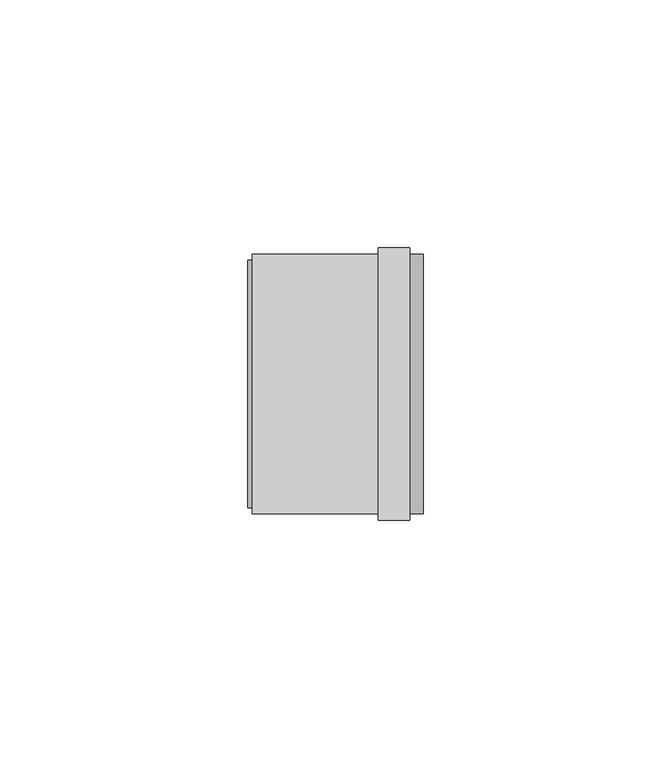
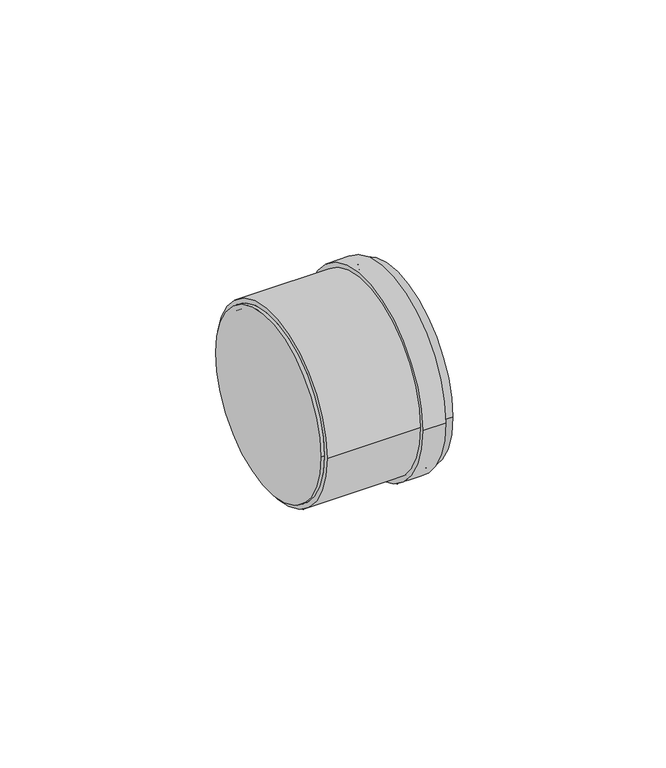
"""IFC4 building model written with IfcOpenShell, lengths in millimetres: pipe fitting geometry, Superdrain HTM-Plug : Superdrain HTM-Plug."""

from ifc_helpers import new_model, si_unit, point, frame, origin, origin_2d, place, context, project, spatial, polyline, circle_curve, trimmed, segment, composite_curve, outline, extrude, source, transform, mapped, element, save
from ifc_brep_helpers import plane_surface, cylinder_surface, revolved_surface, advanced_brep


def pipe_fitting_25bed5f7(model_context):
    return source(origin(), model_context, "Body", "SolidModel", [
        extrude(outline(composite_curve([segment(trimmed(circle_curve(origin_2d(), 26.25), [point((26.25, 0.0))], [point((-26.25, 0.0))], False, "CARTESIAN"), True, "CONTINUOUS"), segment(trimmed(circle_curve(origin_2d(), 26.25), [point((-26.25, 0.0))], [point((26.25, 0.0))], False, "CARTESIAN"), True, "CONTINUOUS")], self_intersect=False), holes=[composite_curve([segment(trimmed(circle_curve(origin_2d(), 25.0), [point((25.0, 0.0))], [point((-25.0, 0.0))], True, "CARTESIAN"), True, "CONTINUOUS"), segment(trimmed(circle_curve(origin_2d(), 25.0), [point((-25.0, 0.0))], [point((25.0, 0.0))], True, "CARTESIAN"), True, "CONTINUOUS")], self_intersect=False)]), frame((0.0, 0.0, 0.0), z_axis=(1.0, 0.0, 0.0), x_axis=(0.0, 1.0, 0.0)), (0.0, 0.0, 1.0), 31.8),
        extrude(outline(composite_curve([segment(trimmed(circle_curve(origin_2d(), 27.5625), [point((27.5625, 0.0))], [point((-27.5625, 0.0))], False, "CARTESIAN"), True, "CONTINUOUS"), segment(trimmed(circle_curve(origin_2d(), 27.5625), [point((-27.5625, 0.0))], [point((27.5625, 0.0))], False, "CARTESIAN"), True, "CONTINUOUS")], self_intersect=False), holes=[composite_curve([segment(trimmed(circle_curve(origin_2d(), 25.0), [point((25.0, 0.0))], [point((-25.0, 0.0))], True, "CARTESIAN"), True, "CONTINUOUS"), segment(trimmed(circle_curve(origin_2d(), 25.0), [point((-25.0, 0.0))], [point((25.0, 0.0))], True, "CARTESIAN"), True, "CONTINUOUS")], self_intersect=False)]), frame((25.44, 0.0, 0.0), z_axis=(1.0, 0.0, 0.0), x_axis=(0.0, 1.0, 0.0)), (0.0, 0.0, 1.0), 6.36),
        extrude(outline(composite_curve([segment(trimmed(circle_curve(origin_2d(), 25.0), [point((25.0, 0.0))], [point((-25.0, 0.0))], False, "CARTESIAN"), True, "CONTINUOUS"), segment(trimmed(circle_curve(origin_2d(), 25.0), [point((-25.0, 0.0))], [point((25.0, 0.0))], False, "CARTESIAN"), True, "CONTINUOUS")], self_intersect=False)), frame((-1.0, 0.0, 0.0), z_axis=(1.0, 0.0, 0.0), x_axis=(0.0, 1.0, 0.0)), (0.0, 0.0, 1.0), 1.0),
        advanced_brep(
        [(0.0, -25.0, 0.0), (0.0, 25.0, 0.0), (0.0, 23.75, 0.0), (0.0, -23.75, 0.0), (34.5, -25.0, 0.0), (34.5, 25.0, 0.0), (31.8, -23.75, 0.0), (31.8, 23.75, 0.0)],
        [
            (0, 1, circle_curve(frame((0.0, 0.0, 0.0), z_axis=(-1.0, 0.0, 0.0), x_axis=(0.0, 1.0, 0.0)), 25.0)),
            (1, 0, circle_curve(frame((0.0, 0.0, 0.0), z_axis=(-1.0, 0.0, 0.0), x_axis=(0.0, 1.0, 0.0)), 25.0)),
            (2, 3, circle_curve(frame((0.0, 0.0, 0.0), z_axis=(1.0, 0.0, 0.0), x_axis=(0.0, 1.0, 0.0)), 23.75)),
            (3, 2, circle_curve(frame((0.0, 0.0, 0.0), z_axis=(1.0, 0.0, 0.0), x_axis=(0.0, 1.0, 0.0)), 23.75)),
            (4, 5, circle_curve(frame((34.5, 0.0, 0.0), z_axis=(1.0, 0.0, 0.0), x_axis=(0.0, 1.0, 0.0)), 25.0)),
            (5, 4, circle_curve(frame((34.5, 0.0, 0.0), z_axis=(1.0, 0.0, 0.0), x_axis=(0.0, 1.0, 0.0)), 25.0)),
            (0, 4),
            (5, 1),
            (6, 7, circle_curve(frame((31.8, 0.0, 0.0), z_axis=(-1.0, 0.0, 0.0), x_axis=(0.0, 1.0, 0.0)), 23.75)),
            (7, 6, circle_curve(frame((31.8, 0.0, 0.0), z_axis=(-1.0, 0.0, 0.0), x_axis=(0.0, 1.0, 0.0)), 23.75)),
            (6, 3),
            (2, 7),
        ],
        [
            plane_surface(frame((0.0, 0.0, 0.0), z_axis=(-1.0, 0.0, 0.0), x_axis=(0.0, 0.0, 1.0))),
            plane_surface(frame((34.5, 0.0, 0.0), z_axis=(1.0, 0.0, 0.0), x_axis=(0.0, 0.0, 1.0))),
            cylinder_surface(frame((0.0, 0.0, 0.0), z_axis=(-1.0, 0.0, 0.0), x_axis=(0.0, 1.0, 0.0)), 25.0),
            plane_surface(frame((31.8, 0.0, 0.0), z_axis=(-1.0, 0.0, 0.0), x_axis=(0.0, 0.0, 1.0))),
            revolved_surface(polyline([(0.0, 23.75, 0.0), (31.8, 23.75, 0.0)]), (-2.7, 0.0, 0.0), (-1.0, 0.0, 0.0)),
        ],
        [
            (0, [[1, 2], [3, 4]]),
            (1, [[5, 6]]),
            (2, [[-1, 7, -6, 8]]),
            (2, [[-2, -8, -5, -7]]),
            (3, [[9, 10]]),
            (4, [[-9, 11, -3, 12]]),
            (4, [[-10, -12, -4, -11]]),
        ],
    ),
        extrude(outline(composite_curve([segment(trimmed(circle_curve(origin_2d(), 26.25), [point((-26.25, 0.0))], [point((26.25, 0.0))], False, "CARTESIAN"), True, "CONTINUOUS"), segment(trimmed(circle_curve(origin_2d(), 26.25), [point((26.25, 0.0))], [point((-26.25, 0.0))], False, "CARTESIAN"), True, "CONTINUOUS")], self_intersect=False)), frame((31.8, 0.0, 0.0), z_axis=(1.0, 0.0, 0.0), x_axis=(0.0, 1.0, 0.0)), (0.0, 0.0, 1.0), 2.7),
    ])


if __name__ == "__main__":
    model = new_model("IFC4")
    model_context = context("Model", 3, world=origin())
    ifc_project = project(units=[si_unit("LENGTHUNIT", "METRE", prefix="MILLI")], contexts=[model_context])
    site = spatial("IfcSite", under=ifc_project)
    building = spatial("IfcBuilding", under=site)
    placement = place(None, origin())
    pipe_fitting_shape = pipe_fitting_25bed5f7(model_context)
    element("IfcPipeFitting", 1, ObjectType="Superdrain HTM-Plug : Superdrain HTM-Plug", at=placement, inside=building, context=model_context, shape_type="MappedRepresentation", body=[
        mapped(pipe_fitting_shape, transform((0.0, 0.0, 0.0), x_axis=(1.0, 0.0, 0.0), y_axis=(0.0, 1.0, 0.0), z_axis=(0.0, 0.0, 1.0))),
    ])
    save(model, "model.ifc")
